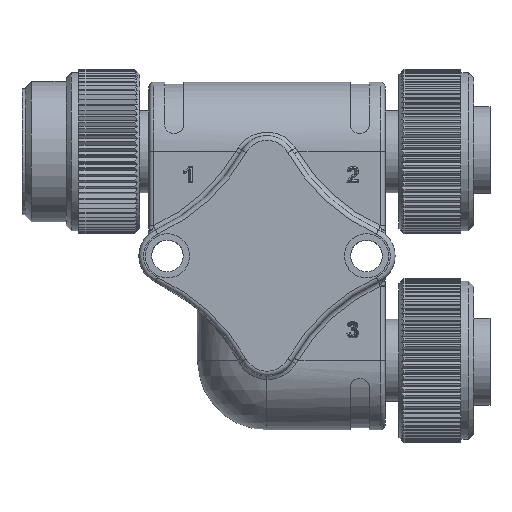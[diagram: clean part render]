
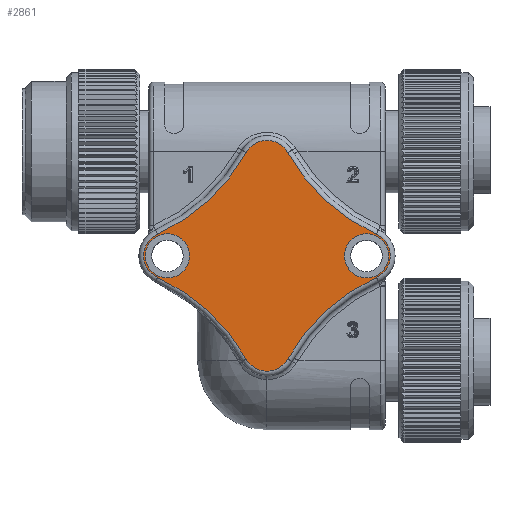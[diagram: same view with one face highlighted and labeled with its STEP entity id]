
A CAD part, top view. The second image highlights one B-rep face of the part: STEP entity #2861.
In plain terms, the highlighted planar face has unit normal (0, 0, 1).
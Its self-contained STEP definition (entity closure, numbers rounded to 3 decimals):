
#229 = EDGE_LOOP ( 'NONE', ( #6104, #6823, #41451, #35633, #1110, #14162, #27002, #30598 ) ) ;
#266 = DIRECTION ( 'NONE',  ( -1., 0., 0. ) ) ;
#947 = DIRECTION ( 'NONE',  ( -1., 0., 0. ) ) ;
#1110 = ORIENTED_EDGE ( 'NONE', *, *, #10200, .T. ) ;
#1581 = VERTEX_POINT ( 'NONE', #9312 ) ;
#1761 = DIRECTION ( 'NONE',  ( -1., 0., 0. ) ) ;
#1787 = AXIS2_PLACEMENT_3D ( 'NONE', #28838, #16140, #266 ) ;
#2576 = DIRECTION ( 'NONE',  ( 0., 0., -1. ) ) ;
#2632 = DIRECTION ( 'NONE',  ( 1., 0., 0. ) ) ;
#2819 = CARTESIAN_POINT ( 'NONE',  ( -44.057, 3.175, 36.11 ) ) ;
#2861 = ADVANCED_FACE ( 'NONE', ( #24360, #40519, #33908 ), #8782, .F. ) ;
#3201 = CARTESIAN_POINT ( 'NONE',  ( -9.44, 9.996, 36.11 ) ) ;
#3273 = EDGE_CURVE ( 'NONE', #1581, #1581, #26332, .T. ) ;
#3737 = DIRECTION ( 'NONE',  ( 1., 0., 0. ) ) ;
#3873 = DIRECTION ( 'NONE',  ( -1., 0., 0. ) ) ;
#5606 = CARTESIAN_POINT ( 'NONE',  ( -42.498, 6.586, 36.11 ) ) ;
#5918 = CIRCLE ( 'NONE', #26107, 3.75 ) ;
#6021 = DIRECTION ( 'NONE',  ( 0., 0., 1. ) ) ;
#6104 = ORIENTED_EDGE ( 'NONE', *, *, #41403, .T. ) ;
#6505 = DIRECTION ( 'NONE',  ( -1., 0., 0. ) ) ;
#6823 = ORIENTED_EDGE ( 'NONE', *, *, #23860, .T. ) ;
#7077 = CIRCLE ( 'NONE', #31972, 3.75 ) ;
#7576 = CARTESIAN_POINT ( 'NONE',  ( 3.341, -24.793, 36.11 ) ) ;
#7658 = DIRECTION ( 'NONE',  ( 0., 0., 1. ) ) ;
#7759 = CARTESIAN_POINT ( 'NONE',  ( -30.019, 22.92, 36.11 ) ) ;
#7789 = CARTESIAN_POINT ( 'NONE',  ( -23.478, 22.92, 36.11 ) ) ;
#8782 = PLANE ( 'NONE',  #29829 ) ;
#9312 = CARTESIAN_POINT ( 'NONE',  ( -38.998, 6.586, 36.11 ) ) ;
#10200 = EDGE_CURVE ( 'NONE', #29015, #41836, #16877, .T. ) ;
#10501 = ORIENTED_EDGE ( 'NONE', *, *, #14659, .F. ) ;
#10968 = VERTEX_POINT ( 'NONE', #24812 ) ;
#11269 = CARTESIAN_POINT ( 'NONE',  ( -44.057, 9.996, 36.11 ) ) ;
#12045 = DIRECTION ( 'NONE',  ( 0., 0., -1. ) ) ;
#12349 = DIRECTION ( 'NONE',  ( -1., 0., 0. ) ) ;
#12773 = EDGE_CURVE ( 'NONE', #22105, #29015, #32482, .T. ) ;
#13528 = DIRECTION ( 'NONE',  ( 0., 0., 1. ) ) ;
#14162 = ORIENTED_EDGE ( 'NONE', *, *, #39048, .T. ) ;
#14659 = EDGE_CURVE ( 'NONE', #30440, #30440, #34874, .T. ) ;
#15281 = AXIS2_PLACEMENT_3D ( 'NONE', #16295, #19823, #38852 ) ;
#15647 = VERTEX_POINT ( 'NONE', #7759 ) ;
#16140 = DIRECTION ( 'NONE',  ( 0., 0., -1. ) ) ;
#16295 = CARTESIAN_POINT ( 'NONE',  ( -56.837, -24.793, 36.11 ) ) ;
#16877 = CIRCLE ( 'NONE', #20335, 30.75 ) ;
#17230 = CARTESIAN_POINT ( 'NONE',  ( -30.019, -9.749, 36.11 ) ) ;
#17987 = VERTEX_POINT ( 'NONE', #17230 ) ;
#18807 = EDGE_CURVE ( 'NONE', #15647, #37310, #32107, .T. ) ;
#19033 = AXIS2_PLACEMENT_3D ( 'NONE', #5606, #6021, #2632 ) ;
#19823 = DIRECTION ( 'NONE',  ( 0., 0., -1. ) ) ;
#19913 = CARTESIAN_POINT ( 'NONE',  ( -10.998, 6.586, 36.11 ) ) ;
#20057 = DIRECTION ( 'NONE',  ( 0., 0., 1. ) ) ;
#20335 = AXIS2_PLACEMENT_3D ( 'NONE', #21966, #2576, #12349 ) ;
#21131 = ORIENTED_EDGE ( 'NONE', *, *, #3273, .F. ) ;
#21175 = CARTESIAN_POINT ( 'NONE',  ( -26.748, -7.914, 36.11 ) ) ;
#21804 = EDGE_CURVE ( 'NONE', #37310, #34075, #37398, .T. ) ;
#21966 = CARTESIAN_POINT ( 'NONE',  ( 3.341, 37.965, 36.11 ) ) ;
#22059 = EDGE_CURVE ( 'NONE', #10968, #22105, #30870, .T. ) ;
#22105 = VERTEX_POINT ( 'NONE', #27377 ) ;
#22517 = CARTESIAN_POINT ( 'NONE',  ( -42.498, 6.586, 36.11 ) ) ;
#22863 = CIRCLE ( 'NONE', #15281, 30.75 ) ;
#23860 = EDGE_CURVE ( 'NONE', #17987, #10968, #5918, .T. ) ;
#23951 = DIRECTION ( 'NONE',  ( -1., 0., 0. ) ) ;
#24344 = AXIS2_PLACEMENT_3D ( 'NONE', #19913, #20057, #3737 ) ;
#24360 = FACE_OUTER_BOUND ( 'NONE', #229, .T. ) ;
#24812 = CARTESIAN_POINT ( 'NONE',  ( -23.478, -9.749, 36.11 ) ) ;
#25912 = DIRECTION ( 'NONE',  ( 0., 0., 1. ) ) ;
#26107 = AXIS2_PLACEMENT_3D ( 'NONE', #21175, #33827, #1761 ) ;
#26332 = CIRCLE ( 'NONE', #19033, 3.5 ) ;
#27002 = ORIENTED_EDGE ( 'NONE', *, *, #18807, .T. ) ;
#27377 = CARTESIAN_POINT ( 'NONE',  ( -9.44, 3.175, 36.11 ) ) ;
#28287 = CARTESIAN_POINT ( 'NONE',  ( -49.668, 22.275, 36.11 ) ) ;
#28693 = CARTESIAN_POINT ( 'NONE',  ( -7.498, 6.586, 36.11 ) ) ;
#28718 = EDGE_LOOP ( 'NONE', ( #10501 ) ) ;
#28838 = CARTESIAN_POINT ( 'NONE',  ( -56.837, 37.965, 36.11 ) ) ;
#29015 = VERTEX_POINT ( 'NONE', #3201 ) ;
#29829 = AXIS2_PLACEMENT_3D ( 'NONE', #28287, #12045, #37883 ) ;
#30440 = VERTEX_POINT ( 'NONE', #28693 ) ;
#30598 = ORIENTED_EDGE ( 'NONE', *, *, #21804, .T. ) ;
#30870 = CIRCLE ( 'NONE', #40937, 30.75 ) ;
#30961 = AXIS2_PLACEMENT_3D ( 'NONE', #39185, #7658, #23951 ) ;
#31707 = EDGE_LOOP ( 'NONE', ( #21131 ) ) ;
#31972 = AXIS2_PLACEMENT_3D ( 'NONE', #35952, #13528, #3873 ) ;
#32107 = CIRCLE ( 'NONE', #1787, 30.75 ) ;
#32482 = CIRCLE ( 'NONE', #30961, 3.75 ) ;
#33827 = DIRECTION ( 'NONE',  ( 0., 0., 1. ) ) ;
#33908 = FACE_BOUND ( 'NONE', #31707, .T. ) ;
#34075 = VERTEX_POINT ( 'NONE', #2819 ) ;
#34874 = CIRCLE ( 'NONE', #24344, 3.5 ) ;
#35633 = ORIENTED_EDGE ( 'NONE', *, *, #12773, .T. ) ;
#35952 = CARTESIAN_POINT ( 'NONE',  ( -26.748, 21.086, 36.11 ) ) ;
#36826 = AXIS2_PLACEMENT_3D ( 'NONE', #22517, #25912, #6505 ) ;
#37310 = VERTEX_POINT ( 'NONE', #11269 ) ;
#37398 = CIRCLE ( 'NONE', #36826, 3.75 ) ;
#37883 = DIRECTION ( 'NONE',  ( -1., 0., 0. ) ) ;
#38852 = DIRECTION ( 'NONE',  ( -1., 0., 0. ) ) ;
#39048 = EDGE_CURVE ( 'NONE', #41836, #15647, #7077, .T. ) ;
#39185 = CARTESIAN_POINT ( 'NONE',  ( -10.998, 6.586, 36.11 ) ) ;
#39951 = DIRECTION ( 'NONE',  ( 0., 0., -1. ) ) ;
#40519 = FACE_BOUND ( 'NONE', #28718, .T. ) ;
#40937 = AXIS2_PLACEMENT_3D ( 'NONE', #7576, #39951, #947 ) ;
#41403 = EDGE_CURVE ( 'NONE', #34075, #17987, #22863, .T. ) ;
#41451 = ORIENTED_EDGE ( 'NONE', *, *, #22059, .T. ) ;
#41836 = VERTEX_POINT ( 'NONE', #7789 ) ;
